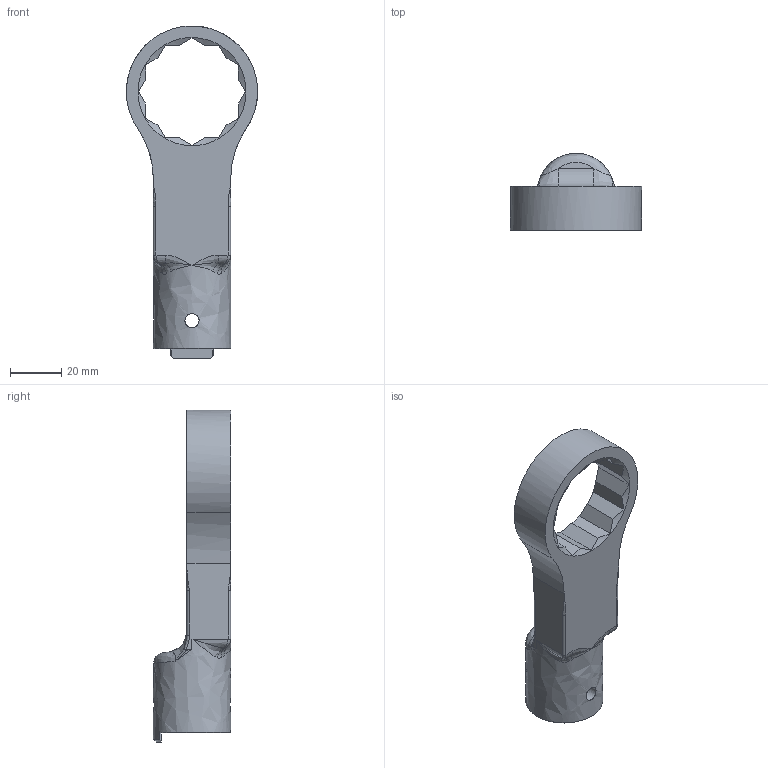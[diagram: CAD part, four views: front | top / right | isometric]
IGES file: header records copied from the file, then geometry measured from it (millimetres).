
Global section: file name: RH22DX36; native system: Autodesk Inventor 2016; preprocessor: unknown; author: Q600; date: 20151110.163042; units: millimetre
Bounding box: 51 x 30 x 128.99 mm (x, y, z)
Volume: 49588.9 mm3; surface area: 15890.4 mm2
Topology: 1 solids, 1 shells, 87 faces, 247 edges, 149 vertices
Faces by surface type: bspline 87
